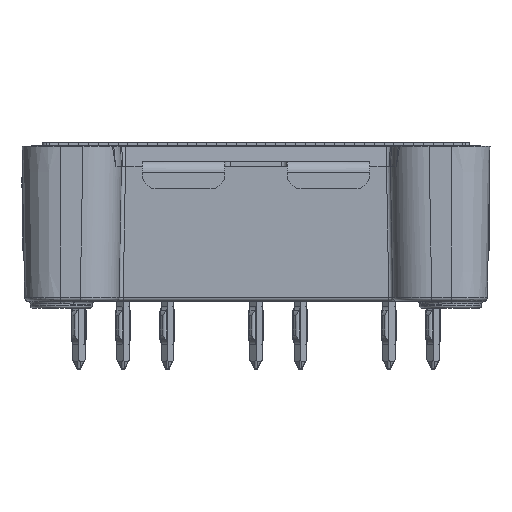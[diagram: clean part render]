
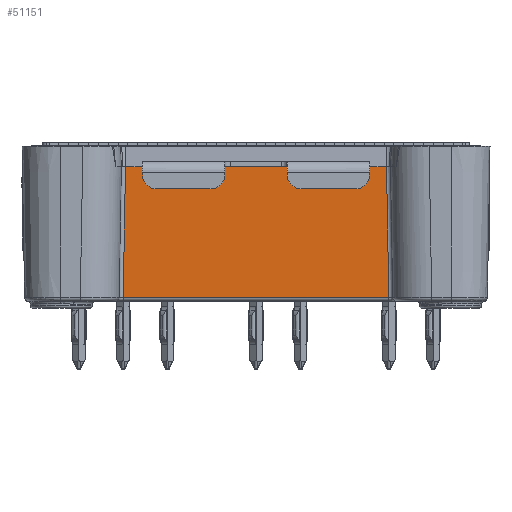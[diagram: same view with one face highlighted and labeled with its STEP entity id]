
A CAD part, left-side view. The second image highlights one B-rep face of the part: STEP entity #51151.
In plain terms, the highlighted planar face has unit normal (-1, 0, -0.018).
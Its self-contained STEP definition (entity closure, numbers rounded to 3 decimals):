
#1892 = DIRECTION ( 'NONE',  ( 0.017, 0.017, -1. ) ) ;
#2320 = CARTESIAN_POINT ( 'NONE',  ( -20.31, -9.7, 0.795 ) ) ;
#2981 = CARTESIAN_POINT ( 'NONE',  ( -20.474, -9.7, 10.23 ) ) ;
#3431 = DIRECTION ( 'NONE',  ( -1., 0., -0.017 ) ) ;
#3650 = CARTESIAN_POINT ( 'NONE',  ( -20.474, 8.2, 10.23 ) ) ;
#5923 = EDGE_CURVE ( 'NONE', #10455, #19487, #81330, .T. ) ;
#6140 = FACE_OUTER_BOUND ( 'NONE', #127353, .T. ) ;
#7560 = DIRECTION ( 'NONE',  ( 0.017, 0., -1. ) ) ;
#9385 = ORIENTED_EDGE ( 'NONE', *, *, #63263, .T. ) ;
#10247 = AXIS2_PLACEMENT_3D ( 'NONE', #83470, #3431, #86067 ) ;
#10455 = VERTEX_POINT ( 'NONE', #130703 ) ;
#15612 = DIRECTION ( 'NONE',  ( 0., 1., 0. ) ) ;
#16557 = CARTESIAN_POINT ( 'NONE',  ( -20.474, 8.2, 10.23 ) ) ;
#17866 = LINE ( 'NONE', #58793, #22601 ) ;
#18078 = VECTOR ( 'NONE', #43880, 1000. ) ;
#19487 = VERTEX_POINT ( 'NONE', #123510 ) ;
#20114 = EDGE_CURVE ( 'NONE', #53958, #85503, #76010, .T. ) ;
#22601 = VECTOR ( 'NONE', #7560, 1000. ) ;
#26687 = VECTOR ( 'NONE', #110563, 1000. ) ;
#27130 = CARTESIAN_POINT ( 'NONE',  ( -20.474, -9.7, 10.23 ) ) ;
#34449 = ORIENTED_EDGE ( 'NONE', *, *, #107419, .T. ) ;
#35030 = VECTOR ( 'NONE', #83888, 1000. ) ;
#35329 = VERTEX_POINT ( 'NONE', #60086 ) ;
#38099 = LINE ( 'NONE', #103545, #77628 ) ;
#39227 = CARTESIAN_POINT ( 'NONE',  ( -20.5, 8.2, 11.7 ) ) ;
#41132 = VECTOR ( 'NONE', #100260, 1000. ) ;
#41193 = ORIENTED_EDGE ( 'NONE', *, *, #56445, .T. ) ;
#41807 = CARTESIAN_POINT ( 'NONE',  ( -20.474, -8.2, 10.23 ) ) ;
#43880 = DIRECTION ( 'NONE',  ( 0., -1., 0. ) ) ;
#45153 = LINE ( 'NONE', #27130, #117955 ) ;
#46724 = CARTESIAN_POINT ( 'NONE',  ( -20.474, -8.2, 10.23 ) ) ;
#47472 = LINE ( 'NONE', #39227, #41132 ) ;
#51151 = ADVANCED_FACE ( 'NONE', ( #6140 ), #73297, .T. ) ;
#51553 = ORIENTED_EDGE ( 'NONE', *, *, #108784, .T. ) ;
#51824 = CARTESIAN_POINT ( 'NONE',  ( -20.304, 9.596, 0.495 ) ) ;
#52440 = EDGE_CURVE ( 'NONE', #103947, #88765, #45153, .T. ) ;
#52591 = DIRECTION ( 'NONE',  ( -0.017, 0.017, 1. ) ) ;
#53958 = VERTEX_POINT ( 'NONE', #3650 ) ;
#56445 = EDGE_CURVE ( 'NONE', #19487, #103947, #38099, .T. ) ;
#57595 = ORIENTED_EDGE ( 'NONE', *, *, #5923, .T. ) ;
#58793 = CARTESIAN_POINT ( 'NONE',  ( -20.5, -8.2, 11.7 ) ) ;
#60086 = CARTESIAN_POINT ( 'NONE',  ( -20.474, 9.426, 10.23 ) ) ;
#63263 = EDGE_CURVE ( 'NONE', #35329, #10455, #116054, .T. ) ;
#64631 = ORIENTED_EDGE ( 'NONE', *, *, #20114, .F. ) ;
#66210 = LINE ( 'NONE', #129620, #26687 ) ;
#72259 = CARTESIAN_POINT ( 'NONE',  ( -20.474, -9.426, 10.23 ) ) ;
#73297 = PLANE ( 'NONE',  #10247 ) ;
#76010 = LINE ( 'NONE', #2981, #35030 ) ;
#77628 = VECTOR ( 'NONE', #52591, 1000. ) ;
#81330 = LINE ( 'NONE', #2320, #18078 ) ;
#83470 = CARTESIAN_POINT ( 'NONE',  ( -20.5, -9.7, 11.7 ) ) ;
#83888 = DIRECTION ( 'NONE',  ( 0., -1., 0. ) ) ;
#85503 = VERTEX_POINT ( 'NONE', #46724 ) ;
#86067 = DIRECTION ( 'NONE',  ( 0., 1., 0. ) ) ;
#88765 = VERTEX_POINT ( 'NONE', #41807 ) ;
#88970 = VECTOR ( 'NONE', #1892, 1000. ) ;
#92747 = ORIENTED_EDGE ( 'NONE', *, *, #104877, .T. ) ;
#100260 = DIRECTION ( 'NONE',  ( -0.017, 0., 1. ) ) ;
#103545 = CARTESIAN_POINT ( 'NONE',  ( -20.5, -9.4, 11.695 ) ) ;
#103947 = VERTEX_POINT ( 'NONE', #72259 ) ;
#104877 = EDGE_CURVE ( 'NONE', #127972, #35329, #66210, .T. ) ;
#107419 = EDGE_CURVE ( 'NONE', #53958, #127972, #47472, .T. ) ;
#107685 = ORIENTED_EDGE ( 'NONE', *, *, #52440, .T. ) ;
#108784 = EDGE_CURVE ( 'NONE', #88765, #85503, #17866, .T. ) ;
#110563 = DIRECTION ( 'NONE',  ( 0., 1., 0. ) ) ;
#116054 = LINE ( 'NONE', #51824, #88970 ) ;
#117955 = VECTOR ( 'NONE', #15612, 1000. ) ;
#123510 = CARTESIAN_POINT ( 'NONE',  ( -20.31, -9.59, 0.795 ) ) ;
#127353 = EDGE_LOOP ( 'NONE', ( #107685, #51553, #64631, #34449, #92747, #9385, #57595, #41193 ) ) ;
#127972 = VERTEX_POINT ( 'NONE', #16557 ) ;
#129620 = CARTESIAN_POINT ( 'NONE',  ( -20.474, -9.7, 10.23 ) ) ;
#130703 = CARTESIAN_POINT ( 'NONE',  ( -20.31, 9.59, 0.795 ) ) ;
